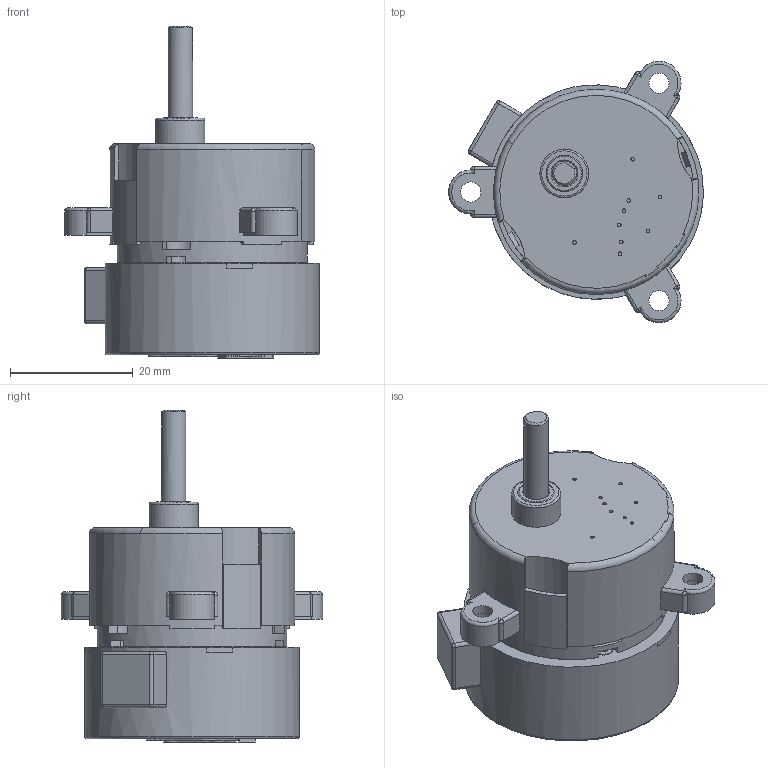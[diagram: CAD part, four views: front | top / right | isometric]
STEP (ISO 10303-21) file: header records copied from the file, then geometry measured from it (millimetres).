
FILE_DESCRIPTION(('HOOPS Exchange Step'),'2;1');
FILE_NAME('/Users/ljakobs/Library/Containers/com.shapr3d.shapr/Data/tmp/export/temp_export','2025-10-14T15:57:41+02:00',('ljakobs'),('Shapr3D Limited'),'HOOPS Exchange 2025.6','Shapr3D','Authorized');
FILE_SCHEMA( ('AP242_MANAGED_MODEL_BASED_3D_ENGINEERING_MIM_LF {1 0 10303 442 1 1 4}') );
Length unit declared in the file: millimetre
Products named in the file (2): 3D Models.stp; root
Assembly tree (1 placements, depth 2):
  root
    3D Models.stp
Bounding box: 41.6 x 42.71 x 54.2 mm (x, y, z)
Volume: 22315.2 mm3; surface area: 14102.8 mm2
Topology: 1 solids, 6 shells, 665 faces, 1896 edges, 1280 vertices
Faces by surface type: plane 308, cylinder 240, cone 52, torus 37, bspline 24, sphere 4
Full cylindrical faces by diameter (mm): 0.42 x2, 0.6 x9, 1.5 x9, 1.8 x6, 2 x3, 2.4 x1, 2.5 x1, 2.7 x3, 3 x2, 3.05 x2, 3.2 x3, 3.3 x3, 3.6 x3, 4 x2, 4.05 x1, 6 x2, 6.2 x1, 6.25 x2, 8 x2, 8.3 x1, 9 x1, 10 x2, 11.6 x1, 12 x1, 12.4 x1, 21.9 x1, 22.3 x1, 31 x1, 35 x1
Entity records: 23598 total; most frequent: CARTESIAN_POINT 5274, DIRECTION 3871, ORIENTED_EDGE 3772, EDGE_CURVE 1886, AXIS2_PLACEMENT_3D 1506, VERTEX_POINT 1280, CIRCLE 861, VECTOR 859
